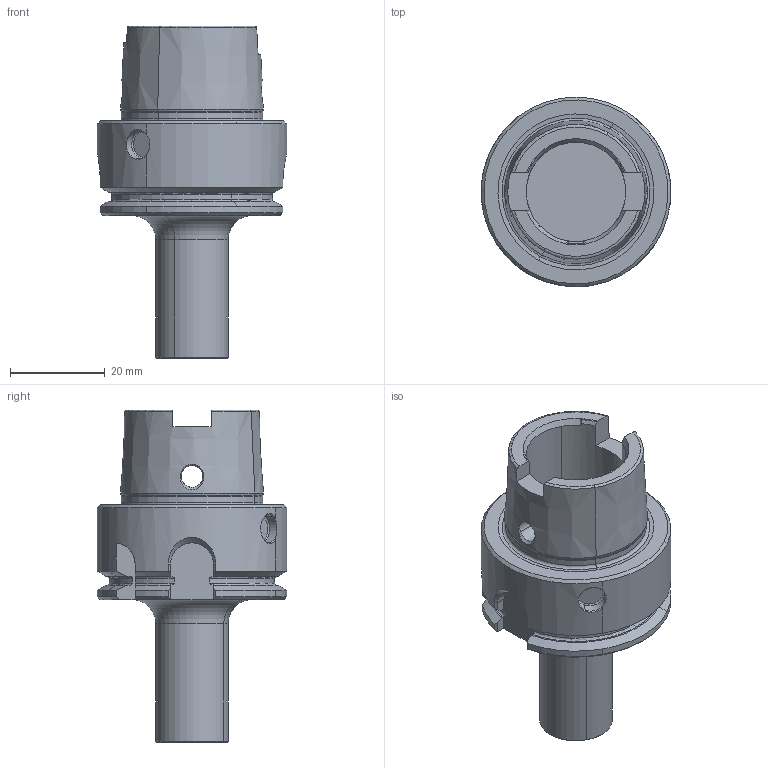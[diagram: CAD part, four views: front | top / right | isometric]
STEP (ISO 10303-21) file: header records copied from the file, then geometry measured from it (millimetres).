
FILE_DESCRIPTION(('CATIA V5 STEP','CAx-IF Rec.Pracs.--- Model Styling and Organization---1.2---2011-12-15'),'2;1');
FILE_NAME('N:\data\isr\design\special1\users\NATALY_B\Tal\NPA\3315509\MM S-A-H050-HSK A40-T10-L.stp','2017-03-12T14:31:28+00:00',('none'),('none'),'CATIA Version 5 Release 21 SP 5 (IN-10)','CATIA V5 STEP AP214','none');
FILE_SCHEMA(('AUTOMOTIVE_DESIGN { 1 0 10303 214 1 1 1 1 }'));
Length unit declared in the file: millimetre
Products named in the file (1): MM S-A-H050-HSK A40-T10
Bounding box: 40 x 40 x 70 mm (x, y, z)
Volume: 32828 mm3; surface area: 10221.4 mm2
Topology: 1 solids, 1 shells, 136 faces, 360 edges, 228 vertices
Faces by surface type: cone 41, plane 39, cylinder 27, torus 25, bspline 4
Entity records: 4457 total; most frequent: CARTESIAN_POINT 1555, ORIENTED_EDGE 720, DIRECTION 391, EDGE_CURVE 360, VERTEX_POINT 228, AXIS2_PLACEMENT_3D 209, CIRCLE 144, EDGE_LOOP 142
